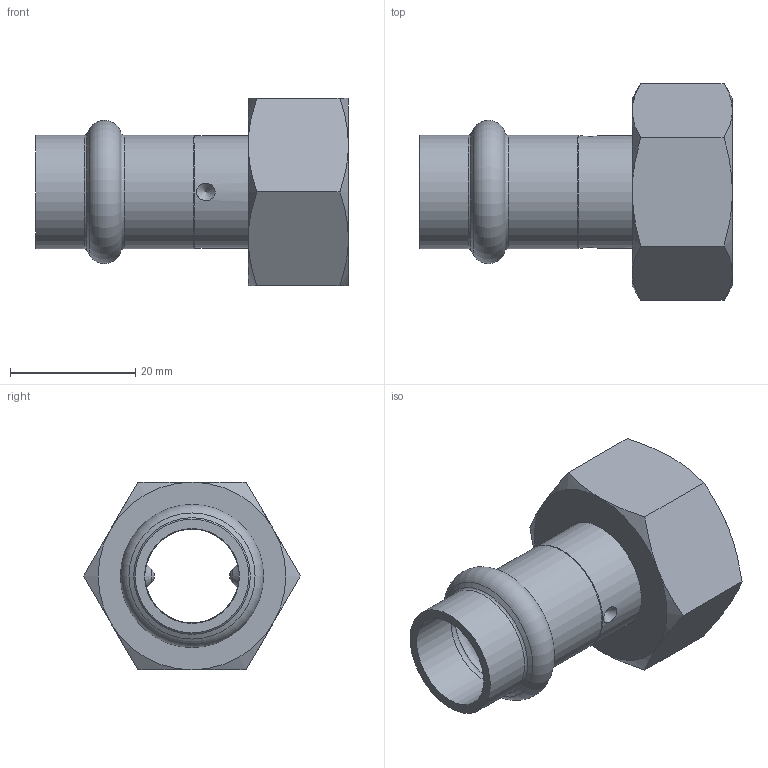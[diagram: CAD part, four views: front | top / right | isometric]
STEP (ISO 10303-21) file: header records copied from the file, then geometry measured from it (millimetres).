
FILE_DESCRIPTION((''),'2;1');
FILE_NAME('G:\Nirosan-Schmiedefeld\Technics\CAD\Bauteile VA\015\69359mms1534(1).stp','2011-09-20T10:40:13',('herberg'),(''),'Autodesk Inventor 2009','Autodesk Inventor 2009','');
FILE_SCHEMA(('AUTOMOTIVE_DESIGN { 1 0 10303 214 1 1 1 1 }'));
Length unit declared in the file: millimetre
Products named in the file (5): 69359mms1534(1); HM_692431815(0); R1834(0); MS_SM1534(2); FD_2417_EPDM(0)
Assembly tree (4 placements, depth 2):
  69359mms1534(1)
    HM_692431815(0)
    R1834(0)
    MS_SM1534(2)
    FD_2417_EPDM(0)
Bounding box: 50 x 34.64 x 30 mm (x, y, z)
Volume: 10306.8 mm3; surface area: 9791.5 mm2
Topology: 4 solids, 4 shells, 60 faces, 129 edges, 78 vertices
Faces by surface type: cone 22, plane 15, cylinder 11, bspline 8, sphere 2, torus 2
Full cylindrical faces by diameter (mm): 15 x2, 15.15 x2, 17 x1, 18 x2, 18.15 x2, 23 x1, 24 x1
Entity records: 1968 total; most frequent: CARTESIAN_POINT 767, DIRECTION 228, ORIENTED_EDGE 176, AXIS2_PLACEMENT_3D 111, EDGE_LOOP 100, EDGE_CURVE 88, VERTEX_POINT 68, FACE_OUTER_BOUND 60
